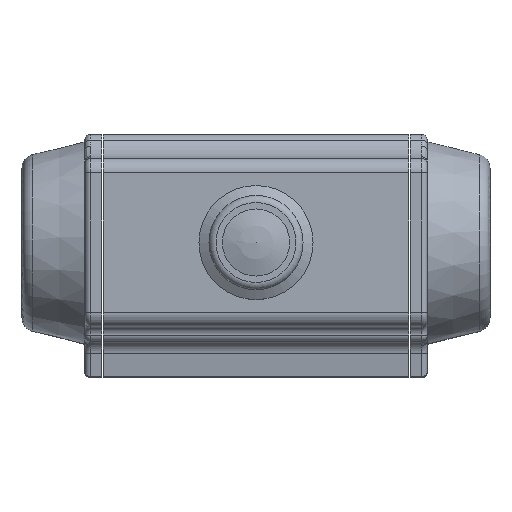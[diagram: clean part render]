
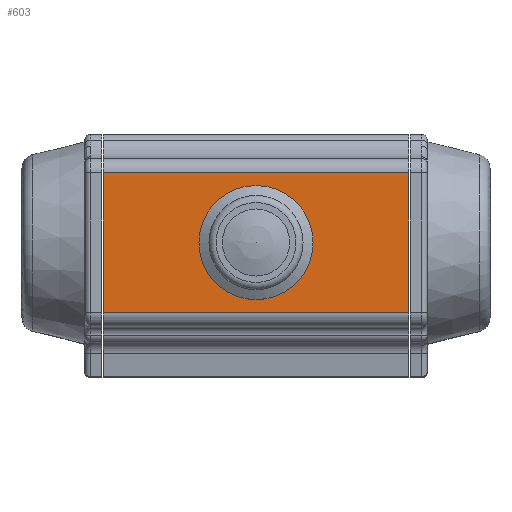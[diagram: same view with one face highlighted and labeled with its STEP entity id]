
A CAD part, top view. The second image highlights one B-rep face of the part: STEP entity #603.
In plain terms, the highlighted planar face has unit normal (0, 0, 1).
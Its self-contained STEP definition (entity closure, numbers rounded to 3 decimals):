
#603 = ADVANCED_FACE( '', ( #1593, #1594 ), #1595, .T. );
#1593 = FACE_BOUND( '', #3279, .T. );
#1594 = FACE_OUTER_BOUND( '', #3280, .T. );
#1595 = PLANE( '', #3281 );
#3279 = EDGE_LOOP( '', ( #7147 ) );
#3280 = EDGE_LOOP( '', ( #7148, #7149, #7150, #7151 ) );
#3281 = AXIS2_PLACEMENT_3D( '', #7152, #7153, #7154 );
#7147 = ORIENTED_EDGE( '', *, *, #11142, .F. );
#7148 = ORIENTED_EDGE( '', *, *, #11143, .F. );
#7149 = ORIENTED_EDGE( '', *, *, #11144, .F. );
#7150 = ORIENTED_EDGE( '', *, *, #11145, .T. );
#7151 = ORIENTED_EDGE( '', *, *, #11146, .T. );
#7152 = CARTESIAN_POINT( '', ( 53.5, -24.5, 42. ) );
#7153 = DIRECTION( '', ( 0., 0., 1. ) );
#7154 = DIRECTION( '', ( 1., 0., 0. ) );
#11142 = EDGE_CURVE( '', #12833, #12833, #12834, .T. );
#11143 = EDGE_CURVE( '', #12835, #12836, #12837, .T. );
#11144 = EDGE_CURVE( '', #12838, #12835, #12839, .T. );
#11145 = EDGE_CURVE( '', #12838, #12840, #12841, .T. );
#11146 = EDGE_CURVE( '', #12840, #12836, #12842, .T. );
#12833 = VERTEX_POINT( '', #15781 );
#12834 = CIRCLE( '', #15782, 20. );
#12835 = VERTEX_POINT( '', #15783 );
#12836 = VERTEX_POINT( '', #15784 );
#12837 = LINE( '', #15785, #15786 );
#12838 = VERTEX_POINT( '', #15787 );
#12839 = LINE( '', #15788, #15789 );
#12840 = VERTEX_POINT( '', #15790 );
#12841 = LINE( '', #15791, #15792 );
#12842 = LINE( '', #15793, #15794 );
#15781 = CARTESIAN_POINT( '', ( 20., 0., 42. ) );
#15782 = AXIS2_PLACEMENT_3D( '', #21279, #21280, #21281 );
#15783 = CARTESIAN_POINT( '', ( -53.5, -24.5, 42. ) );
#15784 = CARTESIAN_POINT( '', ( -53.5, 24.5, 42. ) );
#15785 = CARTESIAN_POINT( '', ( -53.5, -24.5, 42. ) );
#15786 = VECTOR( '', #21282, 1000. );
#15787 = CARTESIAN_POINT( '', ( 53.5, -24.5, 42. ) );
#15788 = CARTESIAN_POINT( '', ( 53.5, -24.5, 42. ) );
#15789 = VECTOR( '', #21283, 1000. );
#15790 = CARTESIAN_POINT( '', ( 53.5, 24.5, 42. ) );
#15791 = CARTESIAN_POINT( '', ( 53.5, -24.5, 42. ) );
#15792 = VECTOR( '', #21284, 1000. );
#15793 = CARTESIAN_POINT( '', ( 53.5, 24.5, 42. ) );
#15794 = VECTOR( '', #21285, 1000. );
#21279 = CARTESIAN_POINT( '', ( 0., 0., 42. ) );
#21280 = DIRECTION( '', ( 0., 0., 1. ) );
#21281 = DIRECTION( '', ( 1., 0., 0. ) );
#21282 = DIRECTION( '', ( 0., 1., 0. ) );
#21283 = DIRECTION( '', ( -1., 0., 0. ) );
#21284 = DIRECTION( '', ( 0., 1., 0. ) );
#21285 = DIRECTION( '', ( -1., 0., 0. ) );
